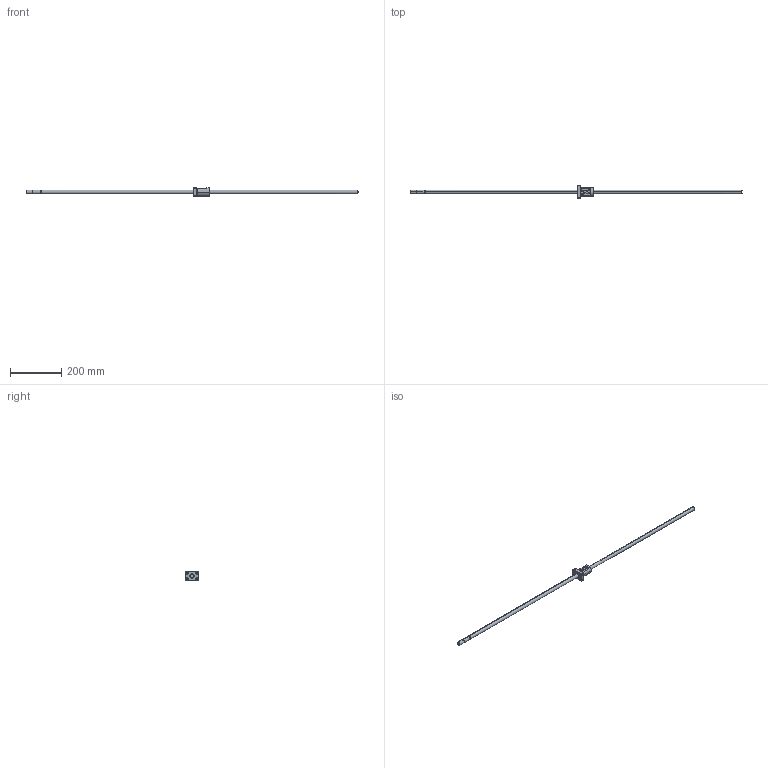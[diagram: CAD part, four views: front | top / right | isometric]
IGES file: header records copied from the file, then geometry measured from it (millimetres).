
Global section: file name: No Iges File Name specified; native system: AutoDesk Inventor R10; preprocessor: AutoDesk Inventor Iges Exporter R10; author: No Author specified; organization: No Organization specified; date: 20101224.141222; units: millimetre
Bounding box: 1300 x 50 x 34 mm (x, y, z)
Surface area: 76484.5 mm2 (no closed solid volume)
Topology: 0 solids, 0 shells, 130 faces, 950 edges, 950 vertices
Faces by surface type: bspline 130
